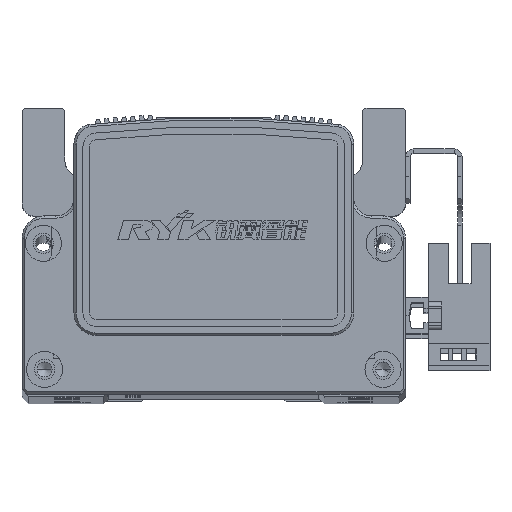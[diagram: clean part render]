
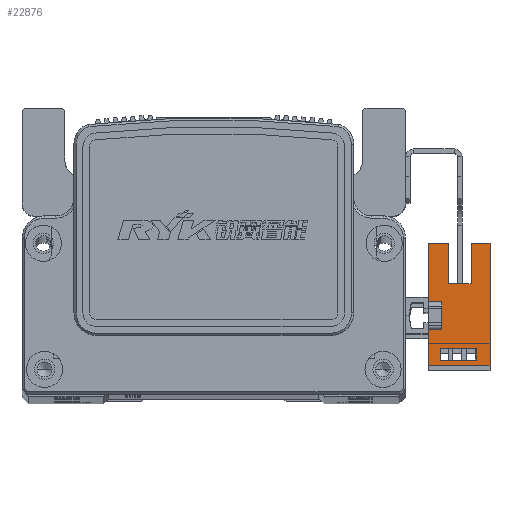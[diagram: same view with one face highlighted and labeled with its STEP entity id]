
A CAD part, top view. The second image highlights one B-rep face of the part: STEP entity #22876.
In plain terms, the highlighted planar face has unit normal (0, 0, 1) as drawn and (1, 0, 0) by its records, which use the part's own axes.
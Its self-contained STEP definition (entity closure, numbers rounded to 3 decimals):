
#9655 = VERTEX_POINT ( 'NONE', #13456 ) ;
#9658 = VERTEX_POINT ( 'NONE', #13464 ) ;
#9671 = VERTEX_POINT ( 'NONE', #13477 ) ;
#9691 = VERTEX_POINT ( 'NONE', #13481 ) ;
#9704 = VERTEX_POINT ( 'NONE', #13519 ) ;
#9735 = VERTEX_POINT ( 'NONE', #13589 ) ;
#9742 = VERTEX_POINT ( 'NONE', #13577 ) ;
#9745 = VERTEX_POINT ( 'NONE', #13579 ) ;
#9750 = VERTEX_POINT ( 'NONE', #13580 ) ;
#9764 = VERTEX_POINT ( 'NONE', #13573 ) ;
#9766 = VERTEX_POINT ( 'NONE', #13536 ) ;
#9783 = VERTEX_POINT ( 'NONE', #13546 ) ;
#9784 = VERTEX_POINT ( 'NONE', #13549 ) ;
#9786 = VERTEX_POINT ( 'NONE', #13553 ) ;
#9791 = VERTEX_POINT ( 'NONE', #13559 ) ;
#9794 = VERTEX_POINT ( 'NONE', #13571 ) ;
#13456 = CARTESIAN_POINT ( 'NONE',  ( 3.2, 16.1, -10.7 ) ) ;
#13464 = CARTESIAN_POINT ( 'NONE',  ( 3.2, 3.1, 3. ) ) ;
#13477 = CARTESIAN_POINT ( 'NONE',  ( 3.2, -3.1, 3. ) ) ;
#13481 = CARTESIAN_POINT ( 'NONE',  ( 3.2, -11.1, 3. ) ) ;
#13519 = CARTESIAN_POINT ( 'NONE',  ( 3.2, 16.1, 3. ) ) ;
#13536 = CARTESIAN_POINT ( 'NONE',  ( 3.2, 7.1, -1.5 ) ) ;
#13546 = CARTESIAN_POINT ( 'NONE',  ( 3.2, -7.33, -7.7 ) ) ;
#13549 = CARTESIAN_POINT ( 'NONE',  ( 3.2, 3.1, 0. ) ) ;
#13553 = CARTESIAN_POINT ( 'NONE',  ( 3.2, -11.1, -10.7 ) ) ;
#13559 = CARTESIAN_POINT ( 'NONE',  ( 3.2, -9.83, -7.7 ) ) ;
#13571 = CARTESIAN_POINT ( 'NONE',  ( 3.2, -7.33, 0.3 ) ) ;
#13573 = CARTESIAN_POINT ( 'NONE',  ( 3.2, 16.1, -1.5 ) ) ;
#13577 = CARTESIAN_POINT ( 'NONE',  ( 3.2, 7.1, -6.5 ) ) ;
#13579 = CARTESIAN_POINT ( 'NONE',  ( 3.2, -3.1, 0. ) ) ;
#13580 = CARTESIAN_POINT ( 'NONE',  ( 3.2, -9.83, 0.3 ) ) ;
#13589 = CARTESIAN_POINT ( 'NONE',  ( 3.2, 16.1, -6.5 ) ) ;
#22876 = ADVANCED_FACE ( 'NONE', ( #31629, #31661 ), #60160, .T. ) ;
#25699 = EDGE_LOOP ( 'NONE', ( #42596, #42529, #42569, #42531 ) ) ;
#25770 = EDGE_LOOP ( 'NONE', ( #42623, #42621, #42608, #42626, #42609, #42631, #42618, #42598, #42579, #42630, #42617, #42578 ) ) ;
#30461 = AXIS2_PLACEMENT_3D ( 'NONE', #60140, #60174, #60149 ) ;
#31629 = FACE_OUTER_BOUND ( 'NONE', #25770, .T. ) ;
#31661 = FACE_BOUND ( 'NONE', #25699, .T. ) ;
#35709 = LINE ( 'NONE', #49353, #35711 ) ;
#35711 = VECTOR ( 'NONE', #49359, 1000. ) ;
#35712 = VECTOR ( 'NONE', #49360, 1000. ) ;
#35738 = VECTOR ( 'NONE', #49310, 1000. ) ;
#35749 = LINE ( 'NONE', #49336, #35738 ) ;
#35750 = LINE ( 'NONE', #49269, #35757 ) ;
#35756 = LINE ( 'NONE', #49335, #35712 ) ;
#35757 = VECTOR ( 'NONE', #49297, 1000. ) ;
#35772 = LINE ( 'NONE', #49409, #35780 ) ;
#35776 = LINE ( 'NONE', #49366, #35795 ) ;
#35778 = LINE ( 'NONE', #49387, #35816 ) ;
#35780 = VECTOR ( 'NONE', #49423, 1000. ) ;
#35790 = VECTOR ( 'NONE', #49364, 1000. ) ;
#35795 = VECTOR ( 'NONE', #49345, 1000. ) ;
#35802 = VECTOR ( 'NONE', #49355, 1000. ) ;
#35809 = LINE ( 'NONE', #49365, #35790 ) ;
#35816 = VECTOR ( 'NONE', #49415, 1000. ) ;
#35829 = LINE ( 'NONE', #49371, #35802 ) ;
#35837 = LINE ( 'NONE', #49473, #35838 ) ;
#35838 = VECTOR ( 'NONE', #49507, 1000. ) ;
#35854 = VECTOR ( 'NONE', #49470, 1000. ) ;
#35876 = LINE ( 'NONE', #49445, #35897 ) ;
#35879 = LINE ( 'NONE', #49460, #35854 ) ;
#35897 = VECTOR ( 'NONE', #49466, 1000. ) ;
#35910 = VECTOR ( 'NONE', #49544, 1000. ) ;
#35923 = VECTOR ( 'NONE', #49533, 1000. ) ;
#35927 = LINE ( 'NONE', #49542, #35910 ) ;
#35947 = LINE ( 'NONE', #49518, #35923 ) ;
#35954 = VECTOR ( 'NONE', #49479, 1000. ) ;
#35955 = LINE ( 'NONE', #49556, #35961 ) ;
#35961 = VECTOR ( 'NONE', #49519, 1000. ) ;
#35962 = LINE ( 'NONE', #49503, #35954 ) ;
#42529 = ORIENTED_EDGE ( 'NONE', *, *, #66990, .F. ) ;
#42531 = ORIENTED_EDGE ( 'NONE', *, *, #67017, .F. ) ;
#42569 = ORIENTED_EDGE ( 'NONE', *, *, #67018, .F. ) ;
#42578 = ORIENTED_EDGE ( 'NONE', *, *, #66958, .T. ) ;
#42579 = ORIENTED_EDGE ( 'NONE', *, *, #66934, .F. ) ;
#42596 = ORIENTED_EDGE ( 'NONE', *, *, #67013, .F. ) ;
#42598 = ORIENTED_EDGE ( 'NONE', *, *, #66994, .F. ) ;
#42608 = ORIENTED_EDGE ( 'NONE', *, *, #66948, .T. ) ;
#42609 = ORIENTED_EDGE ( 'NONE', *, *, #66973, .F. ) ;
#42617 = ORIENTED_EDGE ( 'NONE', *, *, #66957, .T. ) ;
#42618 = ORIENTED_EDGE ( 'NONE', *, *, #66962, .F. ) ;
#42621 = ORIENTED_EDGE ( 'NONE', *, *, #67053, .T. ) ;
#42623 = ORIENTED_EDGE ( 'NONE', *, *, #67037, .T. ) ;
#42626 = ORIENTED_EDGE ( 'NONE', *, *, #67028, .T. ) ;
#42630 = ORIENTED_EDGE ( 'NONE', *, *, #66967, .F. ) ;
#42631 = ORIENTED_EDGE ( 'NONE', *, *, #67045, .F. ) ;
#49269 = CARTESIAN_POINT ( 'NONE',  ( 3.2, 16.1, 3. ) ) ;
#49297 = DIRECTION ( 'NONE',  ( 0., 1., 0. ) ) ;
#49310 = DIRECTION ( 'NONE',  ( 0., 1., 0. ) ) ;
#49335 = CARTESIAN_POINT ( 'NONE',  ( 3.2, 16.1, -10.7 ) ) ;
#49336 = CARTESIAN_POINT ( 'NONE',  ( 3.2, 25.1, -1.5 ) ) ;
#49345 = DIRECTION ( 'NONE',  ( 0., 0., 1. ) ) ;
#49353 = CARTESIAN_POINT ( 'NONE',  ( 3.2, 16.1, -10.7 ) ) ;
#49355 = DIRECTION ( 'NONE',  ( 0., 1., 0. ) ) ;
#49359 = DIRECTION ( 'NONE',  ( 0., 0., 1. ) ) ;
#49360 = DIRECTION ( 'NONE',  ( 0., 1., 0. ) ) ;
#49364 = DIRECTION ( 'NONE',  ( 0., 1., 0. ) ) ;
#49365 = CARTESIAN_POINT ( 'NONE',  ( 3.2, 0., 0. ) ) ;
#49366 = CARTESIAN_POINT ( 'NONE',  ( 3.2, -11.1, 3. ) ) ;
#49371 = CARTESIAN_POINT ( 'NONE',  ( 3.2, 16.1, 3. ) ) ;
#49387 = CARTESIAN_POINT ( 'NONE',  ( 3.2, -7.33, -10.7 ) ) ;
#49409 = CARTESIAN_POINT ( 'NONE',  ( 3.2, -3.1, 3. ) ) ;
#49415 = DIRECTION ( 'NONE',  ( 0., 0., 1. ) ) ;
#49423 = DIRECTION ( 'NONE',  ( 0., 0., -1. ) ) ;
#49445 = CARTESIAN_POINT ( 'NONE',  ( 3.2, 16.1, 0.3 ) ) ;
#49460 = CARTESIAN_POINT ( 'NONE',  ( 3.2, -9.83, -10.7 ) ) ;
#49466 = DIRECTION ( 'NONE',  ( 0., -1., 0. ) ) ;
#49470 = DIRECTION ( 'NONE',  ( 0., 0., -1. ) ) ;
#49473 = CARTESIAN_POINT ( 'NONE',  ( 3.2, 16.1, -7.7 ) ) ;
#49479 = DIRECTION ( 'NONE',  ( 0., 0., 1. ) ) ;
#49503 = CARTESIAN_POINT ( 'NONE',  ( 3.2, 16.1, -10.7 ) ) ;
#49507 = DIRECTION ( 'NONE',  ( 0., 1., 0. ) ) ;
#49518 = CARTESIAN_POINT ( 'NONE',  ( 3.2, 25.1, -6.5 ) ) ;
#49519 = DIRECTION ( 'NONE',  ( 0., 0., 1. ) ) ;
#49533 = DIRECTION ( 'NONE',  ( 0., -1., 0. ) ) ;
#49542 = CARTESIAN_POINT ( 'NONE',  ( 3.2, 7.1, -6.5 ) ) ;
#49544 = DIRECTION ( 'NONE',  ( 0., 0., 1. ) ) ;
#49556 = CARTESIAN_POINT ( 'NONE',  ( 3.2, 3.1, 3. ) ) ;
#60140 = CARTESIAN_POINT ( 'NONE',  ( 3.2, 16.1, -10.7 ) ) ;
#60149 = DIRECTION ( 'NONE',  ( 0., 1., 0. ) ) ;
#60160 = PLANE ( 'NONE',  #30461 ) ;
#60174 = DIRECTION ( 'NONE',  ( 1., 0., 0. ) ) ;
#66934 = EDGE_CURVE ( 'NONE', #9691, #9671, #35750, .T. ) ;
#66948 = EDGE_CURVE ( 'NONE', #9766, #9764, #35749, .T. ) ;
#66957 = EDGE_CURVE ( 'NONE', #9786, #9655, #35756, .T. ) ;
#66958 = EDGE_CURVE ( 'NONE', #9655, #9735, #35709, .T. ) ;
#66962 = EDGE_CURVE ( 'NONE', #9745, #9784, #35809, .T. ) ;
#66967 = EDGE_CURVE ( 'NONE', #9786, #9691, #35776, .T. ) ;
#66973 = EDGE_CURVE ( 'NONE', #9658, #9704, #35829, .T. ) ;
#66990 = EDGE_CURVE ( 'NONE', #9783, #9794, #35778, .T. ) ;
#66994 = EDGE_CURVE ( 'NONE', #9671, #9745, #35772, .T. ) ;
#67013 = EDGE_CURVE ( 'NONE', #9794, #9750, #35876, .T. ) ;
#67017 = EDGE_CURVE ( 'NONE', #9750, #9791, #35879, .T. ) ;
#67018 = EDGE_CURVE ( 'NONE', #9791, #9783, #35837, .T. ) ;
#67028 = EDGE_CURVE ( 'NONE', #9764, #9704, #35962, .T. ) ;
#67037 = EDGE_CURVE ( 'NONE', #9735, #9742, #35947, .T. ) ;
#67045 = EDGE_CURVE ( 'NONE', #9784, #9658, #35955, .T. ) ;
#67053 = EDGE_CURVE ( 'NONE', #9742, #9766, #35927, .T. ) ;
